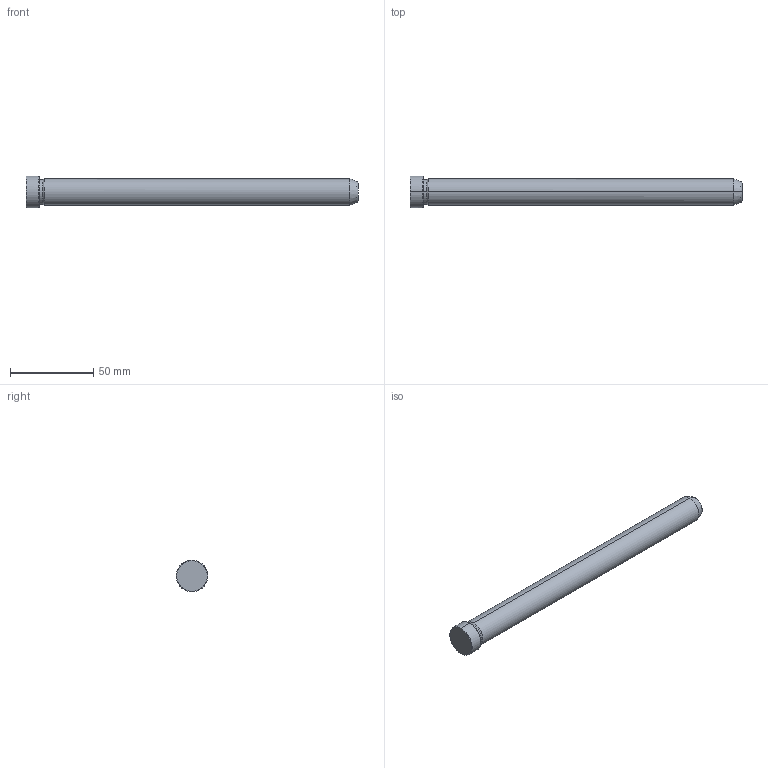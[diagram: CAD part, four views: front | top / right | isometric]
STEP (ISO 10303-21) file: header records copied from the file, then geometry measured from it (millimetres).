
FILE_DESCRIPTION(('CATIA V5 STEP Exchange'),'2;1');
FILE_NAME('C:\Users\Utente\Desktop\IO LAVORO\3D X SITO CF\X SITO\PLASTICA\549\549-16X200.stp','2021-12-11T09:36:39+00:00',('none'),('none'),'CATIA Version 5 Release 20 GA (IN-10)','CATIA V5 STEP AP203','none');
FILE_SCHEMA(('CONFIG_CONTROL_DESIGN'));
Length unit declared in the file: millimetre
Products named in the file (1): 549-16X200
Bounding box: 200 x 19 x 19 mm (x, y, z)
Volume: 40572 mm3; surface area: 10588.1 mm2
Topology: 1 solids, 1 shells, 19 faces, 56 edges, 40 vertices
Faces by surface type: cone 8, cylinder 6, plane 3, torus 2
Entity records: 736 total; most frequent: CARTESIAN_POINT 192, ORIENTED_EDGE 112, DIRECTION 86, EDGE_CURVE 56, AXIS2_PLACEMENT_3D 54, VERTEX_POINT 40, CIRCLE 34, EDGE_LOOP 20
